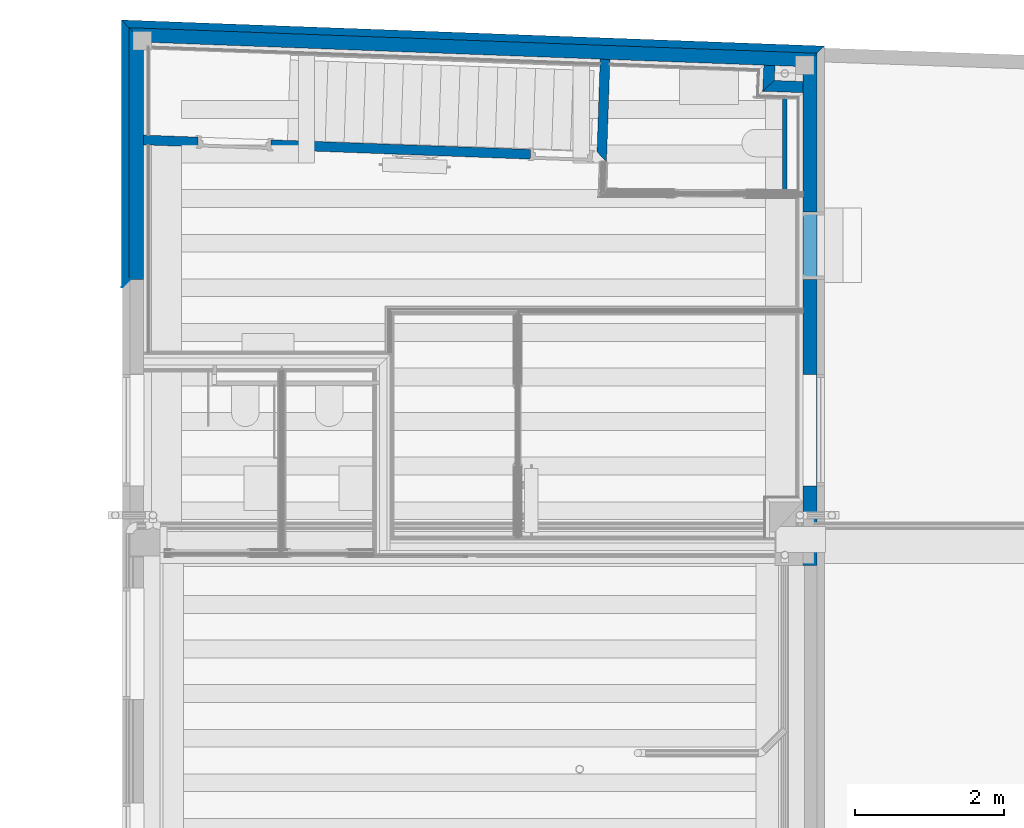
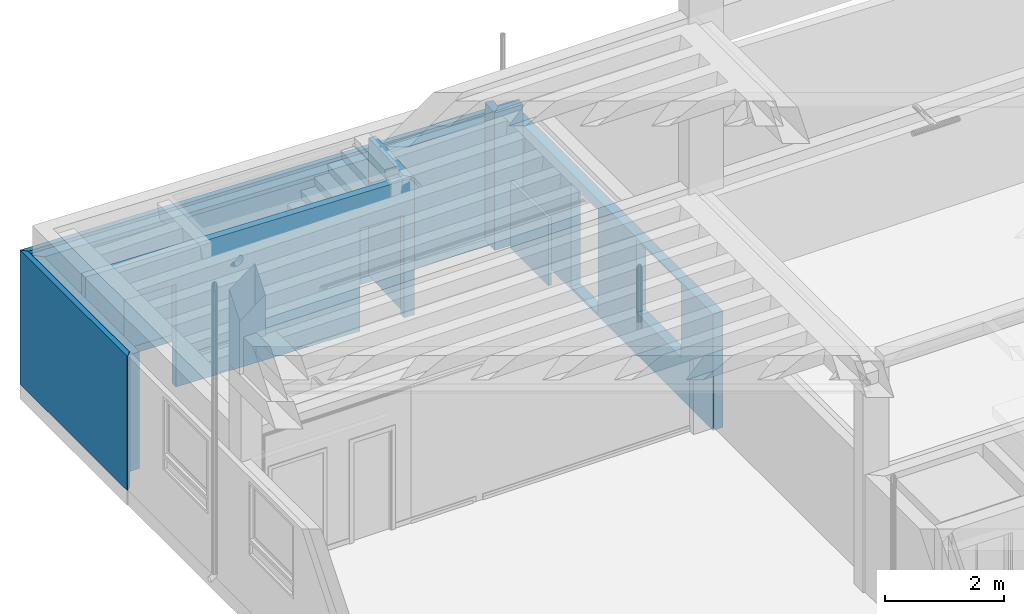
# One storey, part 9 of 108: 11 walls, 4 openings.
"""IFC2X3 building model written with IfcOpenShell, lengths in metres."""

from ifc_helpers import new_model, entity, si_unit, converted_unit, derived_unit, money_unit, direction, frame, frame_2d, origin_with_axes, place, context, subcontext, project, spatial, polyline, rectangle, outline, extrude, material, layer, layer_set, layer_usage, type_object, element, save


model = new_model("IFC2X3")

# Units and contexts
model_context = context("Model", 3, precision=1e-05, world=origin_with_axes(), true_north=direction((0.0, 1.0)))
body_context = subcontext(model_context, "Body", "Model", "MODEL_VIEW", scale=1.0)
ifc_project = project(units=[si_unit("LENGTHUNIT", "METRE"), si_unit("AREAUNIT", "SQUARE_METRE"), si_unit("VOLUMEUNIT", "CUBIC_METRE"), si_unit("ABSORBEDDOSEUNIT", "GRAY"), si_unit("AMOUNTOFSUBSTANCEUNIT", "MOLE"), si_unit("DOSEEQUIVALENTUNIT", "SIEVERT"), si_unit("ELECTRICCAPACITANCEUNIT", "FARAD"), si_unit("ELECTRICCHARGEUNIT", "COULOMB"), si_unit("ELECTRICCONDUCTANCEUNIT", "SIEMENS"), si_unit("ELECTRICCURRENTUNIT", "AMPERE"), si_unit("ELECTRICRESISTANCEUNIT", "OHM"), si_unit("ELECTRICVOLTAGEUNIT", "VOLT"), si_unit("ENERGYUNIT", "JOULE"), si_unit("FORCEUNIT", "NEWTON"), si_unit("FREQUENCYUNIT", "HERTZ"), si_unit("ILLUMINANCEUNIT", "LUX"), si_unit("INDUCTANCEUNIT", "HENRY"), si_unit("LUMINOUSFLUXUNIT", "LUMEN"), si_unit("LUMINOUSINTENSITYUNIT", "CANDELA"), si_unit("MAGNETICFLUXDENSITYUNIT", "TESLA"), si_unit("MAGNETICFLUXUNIT", "WEBER"), si_unit("MASSUNIT", "GRAM"), converted_unit("PLANEANGLEUNIT", "degree", entity("IfcReal", 0.0174532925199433), si_unit("PLANEANGLEUNIT", "RADIAN"), dimensions=[0, 0, 0, 0, 0, 0, 0]), si_unit("POWERUNIT", "WATT"), si_unit("PRESSUREUNIT", "PASCAL"), si_unit("RADIOACTIVITYUNIT", "BECQUEREL"), si_unit("SOLIDANGLEUNIT", "STERADIAN"), si_unit("THERMODYNAMICTEMPERATUREUNIT", "KELVIN"), si_unit("TIMEUNIT", "SECOND"), derived_unit("ACCELERATIONUNIT", [(si_unit("LENGTHUNIT", "METRE"), 1), (si_unit("TIMEUNIT", "SECOND"), -2)]), derived_unit("ANGULARVELOCITYUNIT", [(converted_unit("PLANEANGLEUNIT", "degree", entity("IfcReal", 0.0174532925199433), si_unit("PLANEANGLEUNIT", "RADIAN"), dimensions=[0, 0, 0, 0, 0, 0, 0]), 1), (si_unit("TIMEUNIT", "SECOND"), -1)]), derived_unit("CURVATUREUNIT", [(converted_unit("PLANEANGLEUNIT", "degree", entity("IfcReal", 0.0174532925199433), si_unit("PLANEANGLEUNIT", "RADIAN"), dimensions=[0, 0, 0, 0, 0, 0, 0]), 1), (si_unit("LENGTHUNIT", "METRE"), -1)]), derived_unit("DYNAMICVISCOSITYUNIT", [(si_unit("PRESSUREUNIT", "PASCAL"), 1), (si_unit("TIMEUNIT", "SECOND"), 1)]), derived_unit("HEATFLUXDENSITYUNIT", [(si_unit("POWERUNIT", "WATT"), 1), (si_unit("LENGTHUNIT", "METRE"), -2)]), derived_unit("HEATINGVALUEUNIT", [(si_unit("ENERGYUNIT", "JOULE"), 1), (si_unit("MASSUNIT", "GRAM"), -1)]), derived_unit("INTEGERCOUNTRATEUNIT", [(si_unit("TIMEUNIT", "SECOND"), -1)]), derived_unit("IONCONCENTRATIONUNIT", [(si_unit("MASSUNIT", "GRAM"), 1), (si_unit("VOLUMEUNIT", "CUBIC_METRE"), -1)]), derived_unit("ISOTHERMALMOISTURECAPACITYUNIT", [(si_unit("VOLUMEUNIT", "CUBIC_METRE"), 1), (si_unit("MASSUNIT", "GRAM"), -1)]), derived_unit("KINEMATICVISCOSITYUNIT", [(si_unit("AREAUNIT", "SQUARE_METRE"), 1), (si_unit("TIMEUNIT", "SECOND"), -1)]), derived_unit("LINEARFORCEUNIT", [(si_unit("FORCEUNIT", "NEWTON"), 1), (si_unit("LENGTHUNIT", "METRE"), -1)]), derived_unit("LINEARMOMENTUNIT", [(si_unit("FORCEUNIT", "NEWTON"), 1), (si_unit("LENGTHUNIT", "METRE"), -1)]), derived_unit("LINEARSTIFFNESSUNIT", [(si_unit("FORCEUNIT", "NEWTON"), 1), (si_unit("LENGTHUNIT", "METRE"), -1)]), derived_unit("LINEARVELOCITYUNIT", [(si_unit("LENGTHUNIT", "METRE"), 1), (si_unit("TIMEUNIT", "SECOND"), -1)]), derived_unit("LUMINOUSINTENSITYDISTRIBUTIONUNIT", [(si_unit("LUMINOUSINTENSITYUNIT", "CANDELA"), 1), (si_unit("LUMINOUSFLUXUNIT", "LUMEN"), -1)]), derived_unit("MASSDENSITYUNIT", [(si_unit("MASSUNIT", "GRAM"), 1), (si_unit("VOLUMEUNIT", "CUBIC_METRE"), -1)]), derived_unit("MASSFLOWRATEUNIT", [(si_unit("MASSUNIT", "GRAM"), 1), (si_unit("TIMEUNIT", "SECOND"), -1)]), derived_unit("MASSPERLENGTHUNIT", [(si_unit("MASSUNIT", "GRAM"), 1), (si_unit("LENGTHUNIT", "METRE"), -1)]), derived_unit("MODULUSOFELASTICITYUNIT", [(si_unit("FORCEUNIT", "NEWTON"), 1), (si_unit("AREAUNIT", "SQUARE_METRE"), -1)]), derived_unit("MODULUSOFLINEARSUBGRADEREACTIONUNIT", [(si_unit("FORCEUNIT", "NEWTON"), 1), (si_unit("LENGTHUNIT", "METRE"), -2)]), derived_unit("MODULUSOFROTATIONALSUBGRADEREACTIONUNIT", [(si_unit("FORCEUNIT", "NEWTON"), 1), (si_unit("LENGTHUNIT", "METRE"), 1)]), derived_unit("MODULUSOFSUBGRADEREACTIONUNIT", [(si_unit("FORCEUNIT", "NEWTON"), 1), (si_unit("VOLUMEUNIT", "CUBIC_METRE"), -1)]), derived_unit("MOISTUREDIFFUSIVITYUNIT", [(si_unit("VOLUMEUNIT", "CUBIC_METRE"), 1), (si_unit("TIMEUNIT", "SECOND"), -1)]), derived_unit("MOLECULARWEIGHTUNIT", [(si_unit("MASSUNIT", "GRAM"), 1), (si_unit("AMOUNTOFSUBSTANCEUNIT", "MOLE"), -1)]), derived_unit("PLANARFORCEUNIT", [(si_unit("FORCEUNIT", "NEWTON"), 1), (si_unit("LENGTHUNIT", "METRE"), -2)]), derived_unit("ROTATIONALFREQUENCYUNIT", [(si_unit("TIMEUNIT", "SECOND"), -1)]), derived_unit("ROTATIONALMASSUNIT", [(si_unit("MASSUNIT", "GRAM"), 1), (si_unit("LENGTHUNIT", "METRE"), 2)]), derived_unit("ROTATIONALSTIFFNESSUNIT", [(si_unit("FORCEUNIT", "NEWTON"), 1), (si_unit("LENGTHUNIT", "METRE"), 1), (converted_unit("PLANEANGLEUNIT", "degree", entity("IfcReal", 0.0174532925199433), si_unit("PLANEANGLEUNIT", "RADIAN"), dimensions=[0, 0, 0, 0, 0, 0, 0]), -1)]), derived_unit("SECTIONAREAINTEGRALUNIT", [(si_unit("LENGTHUNIT", "METRE"), 5)]), derived_unit("SECTIONMODULUSUNIT", [(si_unit("LENGTHUNIT", "METRE"), 3)]), derived_unit("SHEARMODULUSUNIT", [(si_unit("FORCEUNIT", "NEWTON"), 1), (si_unit("AREAUNIT", "SQUARE_METRE"), -1)]), derived_unit("SOUNDPOWERUNIT", [(si_unit("ENERGYUNIT", "JOULE"), 1), (si_unit("TIMEUNIT", "SECOND"), -1)]), derived_unit("SPECIFICHEATCAPACITYUNIT", [(si_unit("FORCEUNIT", "NEWTON"), 1), (si_unit("MASSUNIT", "GRAM"), -1), (si_unit("THERMODYNAMICTEMPERATUREUNIT", "KELVIN"), -1)]), derived_unit("TEMPERATUREGRADIENTUNIT", [(si_unit("THERMODYNAMICTEMPERATUREUNIT", "KELVIN"), 1), (si_unit("LENGTHUNIT", "METRE"), -1)]), derived_unit("THERMALADMITTANCEUNIT", [(si_unit("POWERUNIT", "WATT"), 1), (si_unit("AREAUNIT", "SQUARE_METRE"), -1), (si_unit("THERMODYNAMICTEMPERATUREUNIT", "KELVIN"), -1)]), derived_unit("THERMALCONDUCTANCEUNIT", [(si_unit("POWERUNIT", "WATT"), 1), (si_unit("LENGTHUNIT", "METRE"), -1), (si_unit("THERMODYNAMICTEMPERATUREUNIT", "KELVIN"), -1)]), derived_unit("THERMALEXPANSIONCOEFFICIENTUNIT", [(si_unit("THERMODYNAMICTEMPERATUREUNIT", "KELVIN"), -1)]), derived_unit("THERMALRESISTANCEUNIT", [(si_unit("AREAUNIT", "SQUARE_METRE"), 1), (si_unit("POWERUNIT", "WATT"), -1)]), derived_unit("THERMALTRANSMITTANCEUNIT", [(si_unit("POWERUNIT", "WATT"), 1), (si_unit("AREAUNIT", "SQUARE_METRE"), -1), (si_unit("THERMODYNAMICTEMPERATUREUNIT", "KELVIN"), -1)]), derived_unit("TORQUEUNIT", [(si_unit("FORCEUNIT", "NEWTON"), 1), (si_unit("LENGTHUNIT", "METRE"), 1)]), derived_unit("VAPORPERMEABILITYUNIT", [(si_unit("MASSUNIT", "GRAM"), 1), (si_unit("TIMEUNIT", "SECOND"), -1)]), derived_unit("VOLUMETRICFLOWRATEUNIT", [(si_unit("VOLUMEUNIT", "CUBIC_METRE"), 1), (si_unit("TIMEUNIT", "SECOND"), -1)]), derived_unit("WARPINGCONSTANTUNIT", [(si_unit("LENGTHUNIT", "METRE"), 6)]), derived_unit("WARPINGMOMENTUNIT", [(si_unit("FORCEUNIT", "NEWTON"), 1), (si_unit("LENGTHUNIT", "METRE"), 2)]), money_unit("GBP")], contexts=[model_context])

# Site, building, storey
site_placement = place(None, origin_with_axes())
site = spatial("IfcSite", under=ifc_project, at=site_placement, Name="Site", CompositionType="ELEMENT")
building_placement = place(site_placement, origin_with_axes())
building = spatial("IfcBuilding", under=site, at=building_placement, Name="Building01", CompositionType="ELEMENT")
storey_placement = place(building_placement, origin_with_axes())
storey = spatial("IfcBuildingStorey", under=building, at=storey_placement, Name="GF", CompositionType="ELEMENT", Elevation=0.0)

# Walls
ifc_material_1 = material(Name="A_BSUK_WallsExternal_Brick")
ifc_layer_1 = layer(ifc_material_1, 0.1, ventilated=False)
ifc_layer_set_1 = layer_set([ifc_layer_1])
ifc_layer_usage_1 = layer_usage(ifc_layer_set_1, "AXIS2", "POSITIVE", 0.0)
wall_type_1 = type_object("IfcWallType", Name="A-Walls-ExternalBrick", PredefinedType="NOTDEFINED")
wall_1_placement = place(storey_placement, frame((9.4435, 21.262408, -0.145), z_axis=(0.0, 0.0, 1.0), x_axis=(-0.99931258, 0.03707243, 0.0)))
element("IfcWallStandardCase", 1, at=wall_1_placement, inside=storey, type_object=wall_type_1, material=ifc_layer_usage_1, Name="A-Walls-ExternalBrick", ObjectType="A-Walls-ExternalBrick", context=body_context, shape_type="SweptSolid", body=[
    extrude(outline(polyline([(9.35991, 0.1), (0.096363, 0.1), (0.0, 0.0), (9.463689, 0.0), (9.35991, 0.1)])), origin_with_axes(), (0.0, 0.0, 1.0), 2.745),
])
wall_2_placement = place(storey_placement, frame((-0.013684, 21.61325, -0.145), z_axis=(0.0, 0.0, 1.0), x_axis=(0.0, -1.0, 0.0)))
element("IfcWallStandardCase", 2, at=wall_2_placement, inside=storey, type_object=wall_type_1, material=ifc_layer_usage_1, Name="A-Walls-ExternalBrick", ObjectType="A-Walls-ExternalBrick", context=body_context, shape_type="SweptSolid", body=[
    extrude(outline(polyline([(3.493021, 0.1), (0.103779, 0.1), (0.0, 0.0), (3.593021, 0.0), (3.493021, 0.1)])), origin_with_axes(), (0.0, 0.0, 1.0), 2.745),
])
wall_3_placement = place(storey_placement, frame((-0.013684, 18.020229, -0.145), z_axis=(0.0, 0.0, 1.0), x_axis=(1.0, 0.0, 0.0)))
element("IfcWallStandardCase", 3, at=wall_3_placement, inside=storey, type_object=wall_type_1, material=ifc_layer_usage_1, Name="A-Walls-ExternalBrick", ObjectType="A-Walls-ExternalBrick", context=body_context, shape_type="SweptSolid", body=[
    extrude(outline(polyline([(0.114364, 0.1), (0.1, 0.1), (0.0, 0.0), (0.014361, 0.0), (0.114364, 0.1)])), origin_with_axes(), (0.0, 0.0, 1.0), 2.745),
])
ifc_material_2 = material(Name="A_BSUK_WallsExternal_Block")
ifc_layer_2 = layer(ifc_material_2, 0.187, ventilated=False)
ifc_layer_set_2 = layer_set([ifc_layer_2])
ifc_layer_usage_2 = layer_usage(ifc_layer_set_2, "AXIS2", "POSITIVE", 0.0)
wall_type_2 = type_object("IfcWallType", Name="A-Walls-ExternalBlock", PredefinedType="NOTDEFINED")
wall_4_placement = place(storey_placement, frame((9.343265, 21.166058, 0.148), z_axis=(0.0, 0.0, 1.0), x_axis=(-0.99931258, 0.03707243, 0.0)))
element("IfcWallStandardCase", 4, at=wall_4_placement, inside=storey, type_object=wall_type_2, material=ifc_layer_usage_2, Name="A-Walls-ExternalBlock", ObjectType="A-Walls-ExternalBlock", context=body_context, shape_type="SweptSolid", body=[
    extrude(outline(polyline([(9.061665, 0.187), (0.182193, 0.187), (0.0, 0.0), (9.263736, 0.0), (9.061665, 0.187)])), origin_with_axes(), (0.0, 0.0, 1.0), 2.387),
])

# Wall, openings
ifc_layer_3 = layer(ifc_material_2, 0.189, ventilated=False)
ifc_layer_set_3 = layer_set([ifc_layer_3])
ifc_layer_usage_3 = layer_usage(ifc_layer_set_3, "AXIS2", "POSITIVE", 0.0)
wall_5_placement = place(storey_placement, frame((9.343265, 14.271539, 0.148), z_axis=(0.0, 0.0, 1.0), x_axis=(0.0, 1.0, 0.0)))
wall_5 = element("IfcWallStandardCase", 5, at=wall_5_placement, inside=storey, type_object=wall_type_2, material=ifc_layer_usage_3, Name="A-Walls-ExternalBlock", ObjectType="A-Walls-ExternalBlock", context=body_context, shape_type="SweptSolid", body=[
    extrude(outline(polyline([(6.714401, 0.189), (0.0, 0.189), (0.0, 0.0), (6.894519, 0.0), (6.714401, 0.189)])), origin_with_axes(), (0.0, 0.0, 1.0), 2.387),
])
opening_1_placement = place(wall_5_placement, frame((3.852568, 0.0, 0.05), z_axis=(0.0, 0.0, 1.0), x_axis=(1.0, 0.0, 0.0)))
element("IfcOpeningElement", 6, at=opening_1_placement, cuts=wall_5, Name="Opening", ObjectType="Opening", context=body_context, shape_type="SweptSolid", body=[
    extrude(rectangle(XDim=0.909, YDim=2.142, at=frame_2d((-0.4545, 1.071), x_axis=(-1.0, 0.0))), frame((0.0, 0.0, 0.0), z_axis=(0.0, 1.0, 0.0), x_axis=(-1.0, 0.0, 0.0)), (0.0, 0.0, 1.0), 0.189),
])
opening_2_placement = place(wall_5_placement, frame((1.073273, 0.0, 0.85), z_axis=(0.0, 0.0, 1.0), x_axis=(1.0, 0.0, 0.0)))
element("IfcOpeningElement", 7, at=opening_2_placement, cuts=wall_5, Name="Opening", ObjectType="Opening", context=body_context, shape_type="SweptSolid", body=[
    extrude(rectangle(XDim=1.5, YDim=1.5, at=frame_2d((-0.75, 0.75), x_axis=(1.0, 0.0))), frame((0.0, 0.0, 0.0), z_axis=(0.0, 1.0, 0.0), x_axis=(-1.0, 0.0, 0.0)), (0.0, 0.0, 1.0), 0.189),
])

# Wall
ifc_layer_4 = layer(ifc_material_2, 0.195, ventilated=False)
ifc_layer_set_4 = layer_set([ifc_layer_4])
ifc_layer_usage_4 = layer_usage(ifc_layer_set_4, "AXIS2", "POSITIVE", 0.0)
wall_6_placement = place(storey_placement, frame((0.280897, 18.120222, 0.148), z_axis=(0.0, 0.0, 1.0), x_axis=(0.0, 1.0, 0.0)))
element("IfcWallStandardCase", 8, at=wall_6_placement, inside=storey, type_object=wall_type_2, material=ifc_layer_usage_4, Name="A-Walls-ExternalBlock", ObjectType="A-Walls-ExternalBlock", context=body_context, shape_type="SweptSolid", body=[
    extrude(outline(polyline([(3.389265, 0.195), (0.0, 0.195), (0.0, 0.0), (3.194902, 0.0), (3.389265, 0.195)])), origin_with_axes(), (0.0, 0.0, 1.0), 2.387),
])

# Wall, openings
ifc_material_3 = material(Name="A_BSUK_WallsInternal_Block")
ifc_layer_5 = layer(ifc_material_3, 0.131, ventilated=False)
ifc_layer_set_5 = layer_set([ifc_layer_5])
ifc_layer_usage_5 = layer_usage(ifc_layer_set_5, "AXIS2", "POSITIVE", 0.0)
wall_type_3 = type_object("IfcWallType", Name="A-Walls-InternalBlock", PredefinedType="NOTDEFINED")
wall_7_placement = place(storey_placement, frame((6.383485, 19.838621, 0.148), z_axis=(0.0, 0.0, 1.0), x_axis=(-0.99931641, 0.03696906, 0.0)))
wall_7 = element("IfcWallStandardCase", 9, at=wall_7_placement, inside=storey, type_object=wall_type_3, material=ifc_layer_usage_5, Name="A-Walls-InternalBlock", ObjectType="A-Walls-InternalBlock", context=body_context, shape_type="SweptSolid", body=[
    extrude(outline(polyline([(6.101916, 0.131), (-0.131696, 0.131), (0.0, 0.0), (6.106763, 0.0), (6.101916, 0.131)])), origin_with_axes(), (0.0, 0.0, 1.0), 2.812),
])
opening_3_placement = place(wall_7_placement, frame((4.38669, 0.0, 0.0), z_axis=(0.0, 0.0, 1.0), x_axis=(1.0, 0.0, 0.0)))
element("IfcOpeningElement", 10, at=opening_3_placement, cuts=wall_7, Name="Opening", ObjectType="Opening", context=body_context, shape_type="SweptSolid", body=[
    extrude(rectangle(XDim=2.1, YDim=0.984, at=frame_2d((-0.492, 1.05), x_axis=(0.0, -1.0))), frame((0.0, 0.0, 0.0), z_axis=(0.0, 1.0, 0.0), x_axis=(-1.0, 0.0, 0.0)), (0.0, 0.0, 1.0), 0.131),
])
opening_4_placement = place(wall_7_placement, frame((0.061318, 0.0, 0.0), z_axis=(0.0, 0.0, 1.0), x_axis=(1.0, 0.0, 0.0)))
element("IfcOpeningElement", 11, at=opening_4_placement, cuts=wall_7, Name="Opening", ObjectType="Opening", context=body_context, shape_type="SweptSolid", body=[
    extrude(rectangle(XDim=2.1, YDim=0.834, at=frame_2d((-0.417, 1.05), x_axis=(0.0, -1.0))), frame((0.0, 0.0, 0.0), z_axis=(0.0, 1.0, 0.0), x_axis=(-1.0, 0.0, 0.0)), (0.0, 0.0, 1.0), 0.131),
])

# Walls
wall_8_placement = place(storey_placement, frame((6.510248, 19.702842, 0.148), z_axis=(0.0, 0.0, 1.0), x_axis=(0.03365301, 0.99943358, 0.0)))
element("IfcWallStandardCase", 12, at=wall_8_placement, inside=storey, type_object=wall_type_3, material=ifc_layer_usage_5, Name="A-Walls-InternalBlock", ObjectType="A-Walls-InternalBlock", context=body_context, shape_type="SweptSolid", body=[
    extrude(outline(polyline([(1.380693, 0.131), (0.131175, 0.131), (0.0, 0.0), (1.380245, 0.0), (1.380693, 0.131)])), origin_with_axes(), (0.0, 0.0, 1.0), 2.812),
])
ifc_material_4 = material(Name="A_BSUK_WallsInternal")
ifc_layer_6 = layer(ifc_material_4, 0.15, ventilated=False)
ifc_layer_set_6 = layer_set([ifc_layer_6])
ifc_layer_usage_6 = layer_usage(ifc_layer_set_6, "AXIS2", "POSITIVE", 0.0)
wall_type_4 = type_object("IfcWallType", Name="A-Walls-Internal", PredefinedType="NOTDEFINED")
wall_9_placement = place(storey_placement, frame((8.628099, 21.00546, 0.148), z_axis=(0.0, 0.0, 1.0), x_axis=(-0.04616624, -0.99893377, 0.0)))
element("IfcWallStandardCase", 13, at=wall_9_placement, inside=storey, type_object=wall_type_4, material=ifc_layer_usage_6, Name="A-Walls-Internal", ObjectType="A-Walls-Internal", context=body_context, shape_type="SweptSolid", body=[
    extrude(outline(polyline([(0.199603, 0.15), (-0.001365, 0.15), (0.0, 0.0), (0.351255, 0.0), (0.199603, 0.15)])), origin_with_axes(), (0.0, 0.0, 1.0), 2.812),
])
wall_10_placement = place(storey_placement, frame((8.611883, 20.65458, 0.148), z_axis=(0.0, 0.0, 1.0), x_axis=(0.99937968, -0.03521735, 0.0)))
element("IfcWallStandardCase", 14, at=wall_10_placement, inside=storey, type_object=wall_type_4, material=ifc_layer_usage_6, Name="A-Walls-Internal", ObjectType="A-Walls-Internal", context=body_context, shape_type="SweptSolid", body=[
    extrude(outline(polyline([(0.537433, 0.15), (0.151653, 0.15), (0.0, 0.0), (0.542719, 0.0), (0.537433, 0.15)])), origin_with_axes(), (0.0, 0.0, 1.0), 2.812),
])
ifc_material_5 = material(Name="A_BSUK_OpeningsClearance")
ifc_layer_7 = layer(ifc_material_5, 0.05, ventilated=False)
ifc_material_6 = material(Name="A_BSUK_Walls_Timber")
ifc_layer_8 = layer(ifc_material_6, 0.015, ventilated=False)
ifc_layer_set_7 = layer_set([ifc_layer_7, ifc_layer_8])
ifc_layer_usage_7 = layer_usage(ifc_layer_set_7, "AXIS2", "POSITIVE", 0.0)
wall_type_5 = type_object("IfcWallType", Name="SHE_A-Walls_Type05c_PreWallShell_65mm", PredefinedType="NOTDEFINED")
wall_11_placement = place(storey_placement, frame((8.941265, 19.308916, 0.148), z_axis=(0.0, 0.0, 1.0), x_axis=(0.0, 1.0, 0.0)))
element("IfcWallStandardCase", 15, at=wall_11_placement, inside=storey, type_object=wall_type_5, material=ifc_layer_usage_7, Name="5C", ObjectType="SHE_A-Walls_Type05c_PreWallShell_65mm", context=body_context, shape_type="SweptSolid", body=[
    extrude(rectangle(XDim=0.065, YDim=1.265504, at=frame_2d((0.632752, 0.0325), x_axis=(0.0, 1.0))), origin_with_axes(), (0.0, 0.0, 1.0), 1.375),
])

save(model, "model.ifc")
